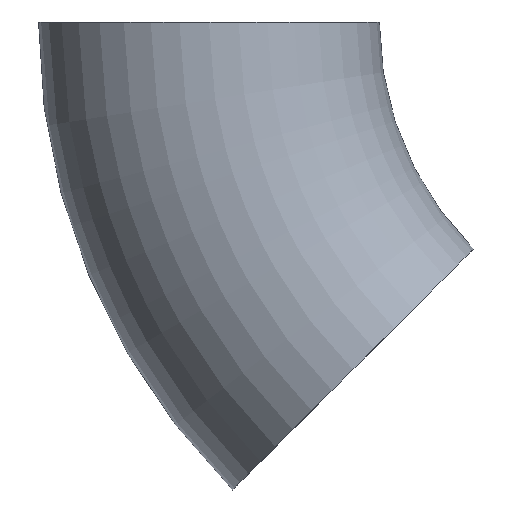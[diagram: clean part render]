
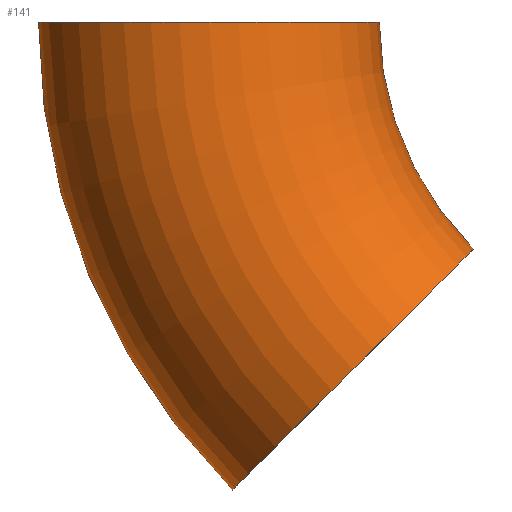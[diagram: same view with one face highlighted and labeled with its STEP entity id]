
A CAD part, front view. The second image highlights one B-rep face of the part: STEP entity #141.
In plain terms, the highlighted toroidal (fillet/blend) face has major radius 150 mm and minor radius 52 mm.
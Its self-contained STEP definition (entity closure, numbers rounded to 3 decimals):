
#4 = VERTEX_POINT ( 'NONE', #73 ) ;
#7 = EDGE_LOOP ( 'NONE', ( #235, #35, #168, #187 ) ) ;
#12 = CIRCLE ( 'NONE', #46, 52. ) ;
#16 = DIRECTION ( 'NONE',  ( 0.707, 0., 0.707 ) ) ;
#17 = DIRECTION ( 'NONE',  ( 0., 0., 1. ) ) ;
#24 = CIRCLE ( 'NONE', #42, 52. ) ;
#25 = TOROIDAL_SURFACE ( 'NONE', #207, 150., 52. ) ;
#33 = FACE_OUTER_BOUND ( 'NONE', #7, .T. ) ;
#35 = ORIENTED_EDGE ( 'NONE', *, *, #200, .T. ) ;
#42 = AXIS2_PLACEMENT_3D ( 'NONE', #219, #145, #148 ) ;
#46 = AXIS2_PLACEMENT_3D ( 'NONE', #127, #93, #16 ) ;
#50 = EDGE_CURVE ( 'NONE', #4, #198, #183, .T. ) ;
#56 = CARTESIAN_POINT ( 'NONE',  ( 0., 0., 0. ) ) ;
#73 = CARTESIAN_POINT ( 'NONE',  ( -142.836, 0., -142.836 ) ) ;
#92 = DIRECTION ( 'NONE',  ( 0., 1., 0. ) ) ;
#93 = DIRECTION ( 'NONE',  ( -0.707, 0., 0.707 ) ) ;
#98 = EDGE_CURVE ( 'NONE', #198, #139, #24, .T. ) ;
#110 = CARTESIAN_POINT ( 'NONE',  ( 0., 0., 0. ) ) ;
#118 = CIRCLE ( 'NONE', #132, 98. ) ;
#127 = CARTESIAN_POINT ( 'NONE',  ( -106.066, 0., -106.066 ) ) ;
#131 = EDGE_CURVE ( 'NONE', #212, #139, #118, .T. ) ;
#132 = AXIS2_PLACEMENT_3D ( 'NONE', #161, #92, #147 ) ;
#139 = VERTEX_POINT ( 'NONE', #205 ) ;
#141 = ADVANCED_FACE ( 'NONE', ( #33 ), #25, .T. ) ;
#145 = DIRECTION ( 'NONE',  ( 0., 0., 1. ) ) ;
#147 = DIRECTION ( 'NONE',  ( 0., 0., 1. ) ) ;
#148 = DIRECTION ( 'NONE',  ( 1., 0., 0. ) ) ;
#152 = AXIS2_PLACEMENT_3D ( 'NONE', #110, #189, #206 ) ;
#161 = CARTESIAN_POINT ( 'NONE',  ( 0., 0., 0. ) ) ;
#168 = ORIENTED_EDGE ( 'NONE', *, *, #131, .T. ) ;
#169 = CARTESIAN_POINT ( 'NONE',  ( -202., 0., 0. ) ) ;
#183 = CIRCLE ( 'NONE', #152, 202. ) ;
#187 = ORIENTED_EDGE ( 'NONE', *, *, #98, .F. ) ;
#189 = DIRECTION ( 'NONE',  ( 0., 1., 0. ) ) ;
#190 = DIRECTION ( 'NONE',  ( 0., 1., 0. ) ) ;
#198 = VERTEX_POINT ( 'NONE', #169 ) ;
#200 = EDGE_CURVE ( 'NONE', #4, #212, #12, .T. ) ;
#205 = CARTESIAN_POINT ( 'NONE',  ( -98., 0., 0. ) ) ;
#206 = DIRECTION ( 'NONE',  ( 0., 0., 1. ) ) ;
#207 = AXIS2_PLACEMENT_3D ( 'NONE', #56, #190, #17 ) ;
#212 = VERTEX_POINT ( 'NONE', #223 ) ;
#219 = CARTESIAN_POINT ( 'NONE',  ( -150., 0., 0. ) ) ;
#223 = CARTESIAN_POINT ( 'NONE',  ( -69.296, 0., -69.296 ) ) ;
#235 = ORIENTED_EDGE ( 'NONE', *, *, #50, .F. ) ;
